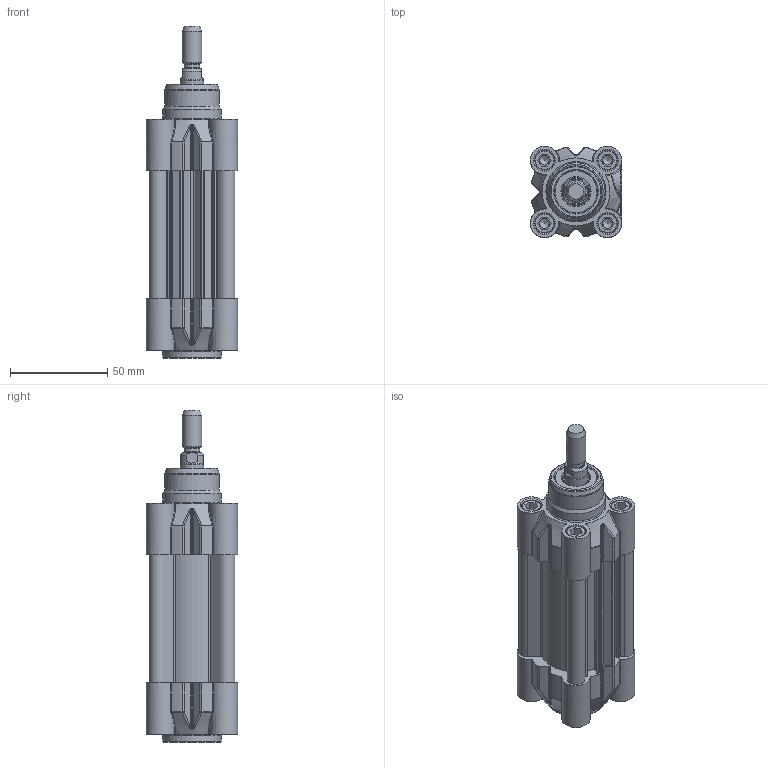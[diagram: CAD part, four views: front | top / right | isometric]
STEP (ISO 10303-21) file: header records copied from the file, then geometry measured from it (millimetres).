
FILE_DESCRIPTION(/* description */ ('CILINDRO D.E. MAGNETICO AMMORTIZZATO ISO 15552'),/* implementation_level */ '2;1');
FILE_NAME(/* name */ 'T:\Archivio Inventor\- 00 NUOVI STP PER SITO CON STELO CHE SI MUOVE\SERIE H - U\SERIE HDM\HDM032-TUBO NUOVO\HDM032.025.GS.M.stp',/* time_stamp */ '2018-07-25T10:25:32+02:00',/* author */ ('carlo.corazza'),/* organization */ (''),/* preprocessor_version */ 'ST-DEVELOPER v16.5',/* originating_system */ 'Autodesk Inventor 2017',/* authorisation */ '');
FILE_SCHEMA (('AUTOMOTIVE_DESIGN { 1 0 10303 214 3 1 1 }'));
Length unit declared in the file: millimetre
Products named in the file (5): HDM032.025.GS.M; TP; STELO-025; TA; CORPO-025
Assembly tree (4 placements, depth 2):
  HDM032.025.GS.M
    TP
    STELO-025
    TA
    CORPO-025
Bounding box: 47 x 47 x 171 mm (x, y, z)
Volume: 140318.2 mm3; surface area: 79725.2 mm2
Topology: 4 solids, 18 shells, 969 faces, 2356 edges, 1494 vertices
Faces by surface type: plane 330, cylinder 260, bspline 190, cone 86, torus 83, sphere 20
Full cylindrical faces by diameter (mm): 2 x2, 2.1 x2, 4 x2, 4.5 x2, 4.917 x8, 6 x8, 6.2 x8, 6.3 x4, 7 x2, 7.8 x4, 7.9 x3, 8 x4, 8.566 x2, 10 x9, 10.3 x8, 11.6 x1, 12 x1, 12.8 x1, 12.847 x1, 16 x1, 17 x2, 22 x3, 28 x1, 30 x2, 32 x1
Entity records: 31186 total; most frequent: CARTESIAN_POINT 9171, ORIENTED_EDGE 4162, DIRECTION 4048, EDGE_CURVE 2081, AXIS2_PLACEMENT_3D 1569, VERTEX_POINT 1436, EDGE_LOOP 1302, FACE_OUTER_BOUND 969
